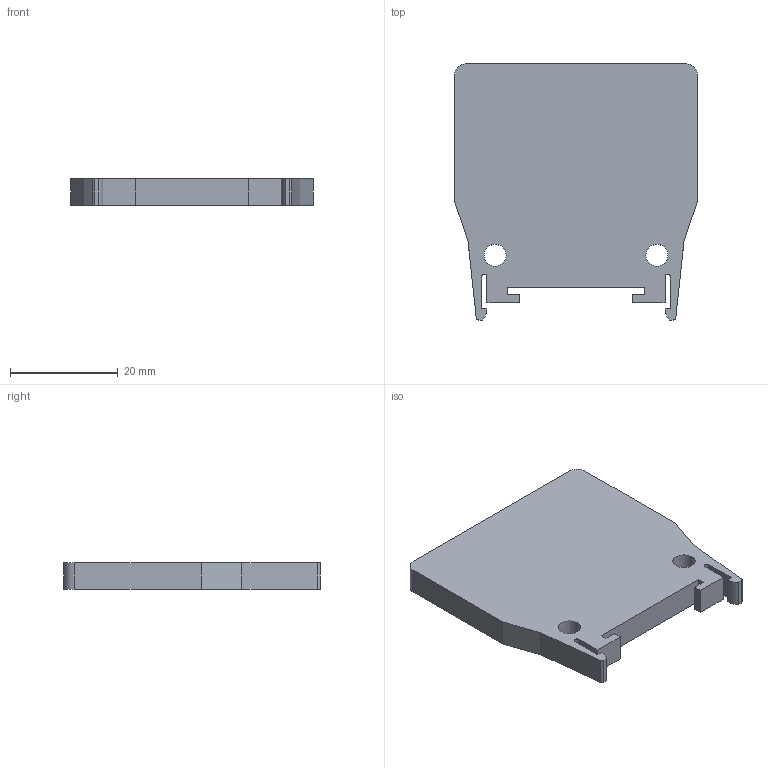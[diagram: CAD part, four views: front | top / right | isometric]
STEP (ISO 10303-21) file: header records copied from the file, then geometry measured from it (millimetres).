
FILE_DESCRIPTION(/* description */ (''),/* implementation_level */ '2;1');
FILE_NAME(/* name */ 'C:\Users\USERCADG105.FUJIDK\Desktop\23221-(TXE-14 Eﾌﾟﾚｰﾄ)HP 3D.stp',/* time_stamp */ '2024-11-29T16:54:52+09:00',/* author */ ('usercadg105'),/* organization */ (''),/* preprocessor_version */ 'ST-DEVELOPER v19',/* originating_system */ 'Autodesk Inventor 2023',/* authorisation */ '');
FILE_SCHEMA (('CONFIG_CONTROL_DESIGN'));
Length unit declared in the file: millimetre
Products named in the file (1): 23221-(TXE-14 Eﾌﾟﾚｰﾄ)HP 3D
Bounding box: 45 x 47.5 x 5 mm (x, y, z)
Volume: 9058 mm3; surface area: 4851.5 mm2
Topology: 1 solids, 1 shells, 36 faces, 102 edges, 68 vertices
Faces by surface type: plane 26, cylinder 10
Full cylindrical faces by diameter (mm): 4.1 x2
Entity records: 1217 total; most frequent: CARTESIAN_POINT 207, ORIENTED_EDGE 204, DIRECTION 196, EDGE_CURVE 102, LINE 82, VECTOR 82, VERTEX_POINT 68, AXIS2_PLACEMENT_3D 57
